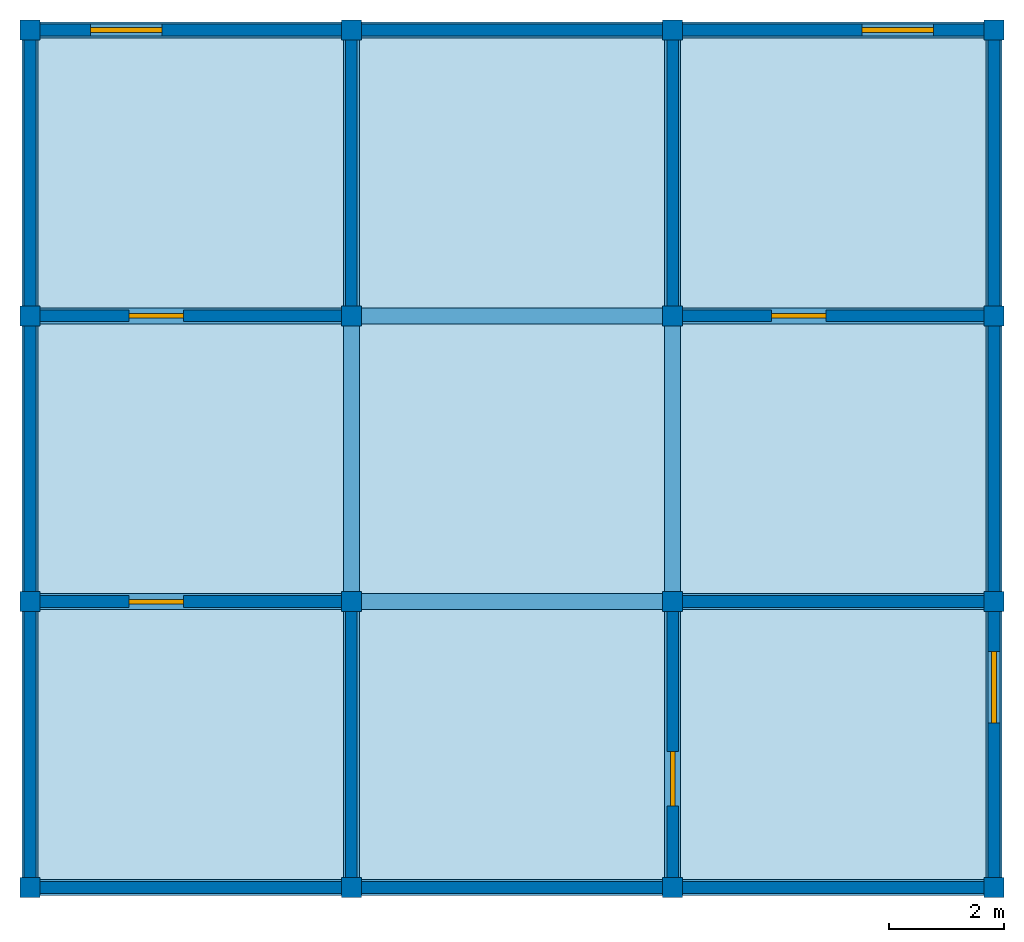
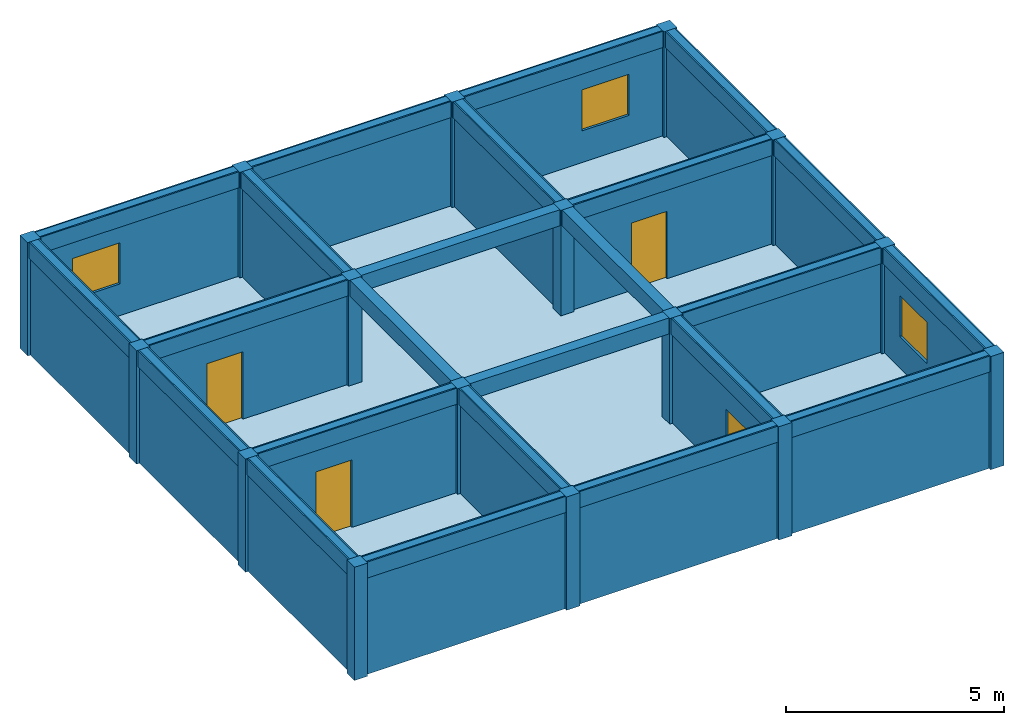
# One storey: 24 beams, 20 walls, 16 columns, 4 doors, 3 windows, 1 slab, 7 openings.
"""IFC4X3 building model written with IfcOpenShell, lengths in metres."""

from ifc_helpers import new_model, si_unit, frame, origin_with_axes, origin_2d, place, context, project, spatial, rectangle, extrude, material, element, fill, save


model = new_model("IFC4X3")

# Units and contexts
model_context = context("Model", 3, precision=1e-05, world=origin_with_axes())
ifc_project = project(units=[si_unit("LENGTHUNIT", "METRE"), si_unit("AREAUNIT", "SQUARE_METRE"), si_unit("VOLUMEUNIT", "CUBIC_METRE")], contexts=[model_context])

# Site, building, storey
site = spatial("IfcSite", under=ifc_project, Name="Puerto Montt Parcel", CompositionType="ELEMENT")
building = spatial("IfcBuilding", under=site, Name="Apex Hub", CompositionType="ELEMENT")
storey = spatial("IfcBuildingStorey", under=building, Name="Level 3", CompositionType="ELEMENT", Elevation=6.33)

# Columns
ifc_material_1 = material(Name="Timber")
column_1_placement = place(None, frame((-8.415, -7.485, 6.334), z_axis=(0.0, 0.0, 1.0), x_axis=(1.0, 0.0, 0.0)))
element("IfcColumn", 1, at=column_1_placement, inside=storey, material=ifc_material_1, Name="Column 3.1", ObjectType="Core Column", PredefinedType="USERDEFINED", context=model_context, shape_type="SweptSolid", body=[
    extrude(rectangle(XDim=0.35, YDim=0.35, at=origin_2d()), origin_with_axes(), (0.0, 0.0, 1.0), 3.167),
])
for number, where, z_axis, x_axis, name in (
    (2, (-8.415, -2.495, 6.334), (0.0, 0.0, 1.0), (1.0, 0.0, 0.0), "Column 3.2"),
    (3, (-8.415, 2.495, 6.334), (0.0, 0.0, 1.0), (1.0, 0.0, 0.0), "Column 3.3"),
):
    element("IfcColumn", number, at=place(None, frame(where, z_axis=z_axis, x_axis=x_axis)), inside=storey, material=ifc_material_1, Name=name, ObjectType="Corner Column", PredefinedType="PILASTER", context=model_context, shape_type="SweptSolid", body=[
        extrude(rectangle(XDim=0.35, YDim=0.35, at=origin_2d()), origin_with_axes(), (0.0, 0.0, 1.0), 3.167),
    ])
column_2_placement = place(None, frame((-8.415, 7.485, 6.334), z_axis=(0.0, 0.0, 1.0), x_axis=(1.0, 0.0, 0.0)))
element("IfcColumn", 4, at=column_2_placement, inside=storey, material=ifc_material_1, Name="Column 3.4", ObjectType="Core Column", PredefinedType="USERDEFINED", context=model_context, shape_type="SweptSolid", body=[
    extrude(rectangle(XDim=0.35, YDim=0.35, at=origin_2d()), origin_with_axes(), (0.0, 0.0, 1.0), 3.167),
])
column_3_placement = place(None, frame((-2.805, -7.485, 6.334), z_axis=(0.0, 0.0, 1.0), x_axis=(1.0, 0.0, 0.0)))
element("IfcColumn", 5, at=column_3_placement, inside=storey, material=ifc_material_1, Name="Column 3.5", ObjectType="Core Column", PredefinedType="NOTDEFINED", context=model_context, shape_type="SweptSolid", body=[
    extrude(rectangle(XDim=0.35, YDim=0.35, at=origin_2d()), origin_with_axes(), (0.0, 0.0, 1.0), 3.167),
])
for number, where, z_axis, x_axis, name in (
    (6, (-2.805, -2.495, 6.334), (0.0, 0.0, 1.0), (1.0, 0.0, 0.0), "Column 3.6"),
    (7, (-2.805, 2.495, 6.334), (0.0, 0.0, 1.0), (1.0, 0.0, 0.0), "Column 3.7"),
):
    element("IfcColumn", number, at=place(None, frame(where, z_axis=z_axis, x_axis=x_axis)), inside=storey, material=ifc_material_1, Name=name, ObjectType="Facade Column", PredefinedType="USERDEFINED", context=model_context, shape_type="SweptSolid", body=[
        extrude(rectangle(XDim=0.35, YDim=0.35, at=origin_2d()), origin_with_axes(), (0.0, 0.0, 1.0), 3.167),
    ])
column_4_placement = place(None, frame((-2.805, 7.485, 6.334), z_axis=(0.0, 0.0, 1.0), x_axis=(1.0, 0.0, 0.0)))
element("IfcColumn", 8, at=column_4_placement, inside=storey, material=ifc_material_1, Name="Column 3.8", ObjectType="Corner Column", PredefinedType="USERDEFINED", context=model_context, shape_type="SweptSolid", body=[
    extrude(rectangle(XDim=0.35, YDim=0.35, at=origin_2d()), origin_with_axes(), (0.0, 0.0, 1.0), 3.167),
])
column_5_placement = place(None, frame((2.805, -7.485, 6.334), z_axis=(0.0, 0.0, 1.0), x_axis=(1.0, 0.0, 0.0)))
element("IfcColumn", 9, at=column_5_placement, inside=storey, material=ifc_material_1, Name="Column 3.9", ObjectType="Structural Column", PredefinedType="USERDEFINED", context=model_context, shape_type="SweptSolid", body=[
    extrude(rectangle(XDim=0.35, YDim=0.35, at=origin_2d()), origin_with_axes(), (0.0, 0.0, 1.0), 3.167),
])
column_6_placement = place(None, frame((2.805, -2.495, 6.334), z_axis=(0.0, 0.0, 1.0), x_axis=(1.0, 0.0, 0.0)))
element("IfcColumn", 10, at=column_6_placement, inside=storey, material=ifc_material_1, Name="Column 3.10", ObjectType="Corner Column", PredefinedType="PILASTER", context=model_context, shape_type="SweptSolid", body=[
    extrude(rectangle(XDim=0.35, YDim=0.35, at=origin_2d()), origin_with_axes(), (0.0, 0.0, 1.0), 3.167),
])
for number, where, z_axis, x_axis, name in (
    (11, (2.805, 2.495, 6.334), (0.0, 0.0, 1.0), (1.0, 0.0, 0.0), "Column 3.11"),
    (12, (2.805, 7.485, 6.334), (0.0, 0.0, 1.0), (1.0, 0.0, 0.0), "Column 3.12"),
):
    element("IfcColumn", number, at=place(None, frame(where, z_axis=z_axis, x_axis=x_axis)), inside=storey, material=ifc_material_1, Name=name, ObjectType="Corner Column", PredefinedType="NOTDEFINED", context=model_context, shape_type="SweptSolid", body=[
        extrude(rectangle(XDim=0.35, YDim=0.35, at=origin_2d()), origin_with_axes(), (0.0, 0.0, 1.0), 3.167),
    ])
column_7_placement = place(None, frame((8.415, -7.485, 6.334), z_axis=(0.0, 0.0, 1.0), x_axis=(1.0, 0.0, 0.0)))
element("IfcColumn", 13, at=column_7_placement, inside=storey, material=ifc_material_1, Name="Column 3.13", ObjectType="Core Column", PredefinedType="NOTDEFINED", context=model_context, shape_type="SweptSolid", body=[
    extrude(rectangle(XDim=0.35, YDim=0.35, at=origin_2d()), origin_with_axes(), (0.0, 0.0, 1.0), 3.167),
])
column_8_placement = place(None, frame((8.415, -2.495, 6.334), z_axis=(0.0, 0.0, 1.0), x_axis=(1.0, 0.0, 0.0)))
element("IfcColumn", 14, at=column_8_placement, inside=storey, material=ifc_material_1, Name="Column 3.14", ObjectType="Core Column", PredefinedType="COLUMN", context=model_context, shape_type="SweptSolid", body=[
    extrude(rectangle(XDim=0.35, YDim=0.35, at=origin_2d()), origin_with_axes(), (0.0, 0.0, 1.0), 3.167),
])
column_9_placement = place(None, frame((8.415, 2.495, 6.334), z_axis=(0.0, 0.0, 1.0), x_axis=(1.0, 0.0, 0.0)))
element("IfcColumn", 15, at=column_9_placement, inside=storey, material=ifc_material_1, Name="Column 3.15", ObjectType="Facade Column", PredefinedType="PILASTER", context=model_context, shape_type="SweptSolid", body=[
    extrude(rectangle(XDim=0.35, YDim=0.35, at=origin_2d()), origin_with_axes(), (0.0, 0.0, 1.0), 3.167),
])
column_10_placement = place(None, frame((8.415, 7.485, 6.334), z_axis=(0.0, 0.0, 1.0), x_axis=(1.0, 0.0, 0.0)))
element("IfcColumn", 16, at=column_10_placement, inside=storey, material=ifc_material_1, Name="Column 3.16", ObjectType="Corner Column", PredefinedType="COLUMN", context=model_context, shape_type="SweptSolid", body=[
    extrude(rectangle(XDim=0.35, YDim=0.35, at=origin_2d()), origin_with_axes(), (0.0, 0.0, 1.0), 3.167),
])

# Beams
ifc_material_2 = material(Name="Concrete")
beam_1_placement = place(None, frame((-5.61, -7.485, 9.051), z_axis=(0.0, 0.0, 1.0), x_axis=(1.0, 0.0, 0.0)))
element("IfcBeam", 17, at=beam_1_placement, inside=storey, material=ifc_material_2, Name="Beam 3.1", ObjectType="Secondary Beam", PredefinedType="T_BEAM", context=model_context, shape_type="SweptSolid", body=[
    extrude(rectangle(XDim=5.61, YDim=0.28, at=origin_2d()), origin_with_axes(), (0.0, 0.0, 1.0), 0.45),
])
beam_2_placement = place(None, frame((0.0, -7.485, 9.051), z_axis=(0.0, 0.0, 1.0), x_axis=(1.0, 0.0, 0.0)))
element("IfcBeam", 18, at=beam_2_placement, inside=storey, material=ifc_material_2, Name="Beam 3.2", ObjectType="Rafter Beam", PredefinedType="NOTDEFINED", context=model_context, shape_type="SweptSolid", body=[
    extrude(rectangle(XDim=5.61, YDim=0.28, at=origin_2d()), origin_with_axes(), (0.0, 0.0, 1.0), 0.45),
])
beam_3_placement = place(None, frame((5.61, -7.485, 9.051), z_axis=(0.0, 0.0, 1.0), x_axis=(1.0, 0.0, 0.0)))
element("IfcBeam", 19, at=beam_3_placement, inside=storey, material=ifc_material_2, Name="Beam 3.3", ObjectType="Transfer Beam", PredefinedType="LINTEL", context=model_context, shape_type="SweptSolid", body=[
    extrude(rectangle(XDim=5.61, YDim=0.28, at=origin_2d()), origin_with_axes(), (0.0, 0.0, 1.0), 0.45),
])
beam_4_placement = place(None, frame((-5.61, -2.495, 9.051), z_axis=(0.0, 0.0, 1.0), x_axis=(1.0, 0.0, 0.0)))
element("IfcBeam", 20, at=beam_4_placement, inside=storey, material=ifc_material_2, Name="Beam 3.4", ObjectType="Secondary Beam", PredefinedType="JOIST", context=model_context, shape_type="SweptSolid", body=[
    extrude(rectangle(XDim=5.61, YDim=0.28, at=origin_2d()), origin_with_axes(), (0.0, 0.0, 1.0), 0.45),
])
beam_5_placement = place(None, frame((0.0, -2.495, 9.051), z_axis=(0.0, 0.0, 1.0), x_axis=(1.0, 0.0, 0.0)))
element("IfcBeam", 21, at=beam_5_placement, inside=storey, material=ifc_material_2, Name="Beam 3.5", ObjectType="Transfer Beam", PredefinedType="LINTEL", context=model_context, shape_type="SweptSolid", body=[
    extrude(rectangle(XDim=5.61, YDim=0.28, at=origin_2d()), origin_with_axes(), (0.0, 0.0, 1.0), 0.45),
])
beam_6_placement = place(None, frame((5.61, -2.495, 9.051), z_axis=(0.0, 0.0, 1.0), x_axis=(1.0, 0.0, 0.0)))
element("IfcBeam", 22, at=beam_6_placement, inside=storey, material=ifc_material_2, Name="Beam 3.6", ObjectType="Secondary Beam", PredefinedType="LINTEL", context=model_context, shape_type="SweptSolid", body=[
    extrude(rectangle(XDim=5.61, YDim=0.28, at=origin_2d()), origin_with_axes(), (0.0, 0.0, 1.0), 0.45),
])
beam_7_placement = place(None, frame((-5.61, 2.495, 9.051), z_axis=(0.0, 0.0, 1.0), x_axis=(1.0, 0.0, 0.0)))
element("IfcBeam", 23, at=beam_7_placement, inside=storey, material=ifc_material_2, Name="Beam 3.7", ObjectType="Transfer Beam", PredefinedType="T_BEAM", context=model_context, shape_type="SweptSolid", body=[
    extrude(rectangle(XDim=5.61, YDim=0.28, at=origin_2d()), origin_with_axes(), (0.0, 0.0, 1.0), 0.45),
])
beam_8_placement = place(None, frame((0.0, 2.495, 9.051), z_axis=(0.0, 0.0, 1.0), x_axis=(1.0, 0.0, 0.0)))
element("IfcBeam", 24, at=beam_8_placement, inside=storey, material=ifc_material_2, Name="Beam 3.8", ObjectType="Ridge Beam", PredefinedType="HOLLOWCORE", context=model_context, shape_type="SweptSolid", body=[
    extrude(rectangle(XDim=5.61, YDim=0.28, at=origin_2d()), origin_with_axes(), (0.0, 0.0, 1.0), 0.45),
])
beam_9_placement = place(None, frame((5.61, 2.495, 9.051), z_axis=(0.0, 0.0, 1.0), x_axis=(1.0, 0.0, 0.0)))
element("IfcBeam", 25, at=beam_9_placement, inside=storey, material=ifc_material_2, Name="Beam 3.9", ObjectType="Transfer Beam", PredefinedType="HOLLOWCORE", context=model_context, shape_type="SweptSolid", body=[
    extrude(rectangle(XDim=5.61, YDim=0.28, at=origin_2d()), origin_with_axes(), (0.0, 0.0, 1.0), 0.45),
])
beam_10_placement = place(None, frame((-5.61, 7.485, 9.051), z_axis=(0.0, 0.0, 1.0), x_axis=(1.0, 0.0, 0.0)))
element("IfcBeam", 26, at=beam_10_placement, inside=storey, material=ifc_material_2, Name="Beam 3.10", ObjectType="Transfer Beam", PredefinedType="T_BEAM", context=model_context, shape_type="SweptSolid", body=[
    extrude(rectangle(XDim=5.61, YDim=0.28, at=origin_2d()), origin_with_axes(), (0.0, 0.0, 1.0), 0.45),
])
beam_11_placement = place(None, frame((0.0, 7.485, 9.051), z_axis=(0.0, 0.0, 1.0), x_axis=(1.0, 0.0, 0.0)))
element("IfcBeam", 27, at=beam_11_placement, inside=storey, material=ifc_material_2, Name="Beam 3.11", ObjectType="Transfer Beam", PredefinedType="BEAM", context=model_context, shape_type="SweptSolid", body=[
    extrude(rectangle(XDim=5.61, YDim=0.28, at=origin_2d()), origin_with_axes(), (0.0, 0.0, 1.0), 0.45),
])
beam_12_placement = place(None, frame((5.61, 7.485, 9.051), z_axis=(0.0, 0.0, 1.0), x_axis=(1.0, 0.0, 0.0)))
element("IfcBeam", 28, at=beam_12_placement, inside=storey, material=ifc_material_2, Name="Beam 3.12", ObjectType="Secondary Beam", PredefinedType="LINTEL", context=model_context, shape_type="SweptSolid", body=[
    extrude(rectangle(XDim=5.61, YDim=0.28, at=origin_2d()), origin_with_axes(), (0.0, 0.0, 1.0), 0.45),
])
beam_13_placement = place(None, frame((-8.415, -4.99, 9.051), z_axis=(0.0, 0.0, 1.0), x_axis=(0.0, 1.0, 0.0)))
element("IfcBeam", 29, at=beam_13_placement, inside=storey, material=ifc_material_2, Name="Beam 3.13", ObjectType="Transfer Beam", PredefinedType="HOLLOWCORE", context=model_context, shape_type="SweptSolid", body=[
    extrude(rectangle(XDim=4.99, YDim=0.28, at=origin_2d()), origin_with_axes(), (0.0, 0.0, 1.0), 0.45),
])
beam_14_placement = place(None, frame((-8.415, 0.0, 9.051), z_axis=(0.0, 0.0, 1.0), x_axis=(0.0, 1.0, 0.0)))
element("IfcBeam", 30, at=beam_14_placement, inside=storey, material=ifc_material_2, Name="Beam 3.14", ObjectType="Rafter Beam", PredefinedType="T_BEAM", context=model_context, shape_type="SweptSolid", body=[
    extrude(rectangle(XDim=4.99, YDim=0.28, at=origin_2d()), origin_with_axes(), (0.0, 0.0, 1.0), 0.45),
])
beam_15_placement = place(None, frame((-8.415, 4.99, 9.051), z_axis=(0.0, 0.0, 1.0), x_axis=(0.0, 1.0, 0.0)))
element("IfcBeam", 31, at=beam_15_placement, inside=storey, material=ifc_material_2, Name="Beam 3.15", ObjectType="Rafter Beam", PredefinedType="LINTEL", context=model_context, shape_type="SweptSolid", body=[
    extrude(rectangle(XDim=4.99, YDim=0.28, at=origin_2d()), origin_with_axes(), (0.0, 0.0, 1.0), 0.45),
])
beam_16_placement = place(None, frame((-2.805, -4.99, 9.051), z_axis=(0.0, 0.0, 1.0), x_axis=(0.0, 1.0, 0.0)))
element("IfcBeam", 32, at=beam_16_placement, inside=storey, material=ifc_material_2, Name="Beam 3.16", ObjectType="Secondary Beam", PredefinedType="LINTEL", context=model_context, shape_type="SweptSolid", body=[
    extrude(rectangle(XDim=4.99, YDim=0.28, at=origin_2d()), origin_with_axes(), (0.0, 0.0, 1.0), 0.45),
])
beam_17_placement = place(None, frame((-2.805, 0.0, 9.051), z_axis=(0.0, 0.0, 1.0), x_axis=(0.0, 1.0, 0.0)))
element("IfcBeam", 33, at=beam_17_placement, inside=storey, material=ifc_material_2, Name="Beam 3.17", ObjectType="Rafter Beam", PredefinedType="USERDEFINED", context=model_context, shape_type="SweptSolid", body=[
    extrude(rectangle(XDim=4.99, YDim=0.28, at=origin_2d()), origin_with_axes(), (0.0, 0.0, 1.0), 0.45),
])
beam_18_placement = place(None, frame((-2.805, 4.99, 9.051), z_axis=(0.0, 0.0, 1.0), x_axis=(0.0, 1.0, 0.0)))
element("IfcBeam", 34, at=beam_18_placement, inside=storey, material=ifc_material_2, Name="Beam 3.18", ObjectType="Secondary Beam", PredefinedType="JOIST", context=model_context, shape_type="SweptSolid", body=[
    extrude(rectangle(XDim=4.99, YDim=0.28, at=origin_2d()), origin_with_axes(), (0.0, 0.0, 1.0), 0.45),
])
beam_19_placement = place(None, frame((2.805, -4.99, 9.051), z_axis=(0.0, 0.0, 1.0), x_axis=(0.0, 1.0, 0.0)))
element("IfcBeam", 35, at=beam_19_placement, inside=storey, material=ifc_material_2, Name="Beam 3.19", ObjectType="Rafter Beam", PredefinedType="NOTDEFINED", context=model_context, shape_type="SweptSolid", body=[
    extrude(rectangle(XDim=4.99, YDim=0.28, at=origin_2d()), origin_with_axes(), (0.0, 0.0, 1.0), 0.45),
])
beam_20_placement = place(None, frame((2.805, 0.0, 9.051), z_axis=(0.0, 0.0, 1.0), x_axis=(0.0, 1.0, 0.0)))
element("IfcBeam", 36, at=beam_20_placement, inside=storey, material=ifc_material_2, Name="Beam 3.20", ObjectType="Rafter Beam", PredefinedType="HOLLOWCORE", context=model_context, shape_type="SweptSolid", body=[
    extrude(rectangle(XDim=4.99, YDim=0.28, at=origin_2d()), origin_with_axes(), (0.0, 0.0, 1.0), 0.45),
])
beam_21_placement = place(None, frame((2.805, 4.99, 9.051), z_axis=(0.0, 0.0, 1.0), x_axis=(0.0, 1.0, 0.0)))
element("IfcBeam", 37, at=beam_21_placement, inside=storey, material=ifc_material_2, Name="Beam 3.21", ObjectType="Secondary Beam", PredefinedType="USERDEFINED", context=model_context, shape_type="SweptSolid", body=[
    extrude(rectangle(XDim=4.99, YDim=0.28, at=origin_2d()), origin_with_axes(), (0.0, 0.0, 1.0), 0.45),
])
beam_22_placement = place(None, frame((8.415, -4.99, 9.051), z_axis=(0.0, 0.0, 1.0), x_axis=(0.0, 1.0, 0.0)))
element("IfcBeam", 38, at=beam_22_placement, inside=storey, material=ifc_material_2, Name="Beam 3.22", ObjectType="Primary Beam", PredefinedType="SPANDREL", context=model_context, shape_type="SweptSolid", body=[
    extrude(rectangle(XDim=4.99, YDim=0.28, at=origin_2d()), origin_with_axes(), (0.0, 0.0, 1.0), 0.45),
])
beam_23_placement = place(None, frame((8.415, 0.0, 9.051), z_axis=(0.0, 0.0, 1.0), x_axis=(0.0, 1.0, 0.0)))
element("IfcBeam", 39, at=beam_23_placement, inside=storey, material=ifc_material_2, Name="Beam 3.23", ObjectType="Rafter Beam", PredefinedType="JOIST", context=model_context, shape_type="SweptSolid", body=[
    extrude(rectangle(XDim=4.99, YDim=0.28, at=origin_2d()), origin_with_axes(), (0.0, 0.0, 1.0), 0.45),
])
beam_24_placement = place(None, frame((8.415, 4.99, 9.051), z_axis=(0.0, 0.0, 1.0), x_axis=(0.0, 1.0, 0.0)))
element("IfcBeam", 40, at=beam_24_placement, inside=storey, material=ifc_material_2, Name="Beam 3.24", ObjectType="Primary Beam", PredefinedType="USERDEFINED", context=model_context, shape_type="SweptSolid", body=[
    extrude(rectangle(XDim=4.99, YDim=0.28, at=origin_2d()), origin_with_axes(), (0.0, 0.0, 1.0), 0.45),
])

# Slab
slab_placement = place(None, frame((0.0, 0.0, 6.33), z_axis=(0.0, 0.0, 1.0), x_axis=(1.0, 0.0, 0.0)))
element("IfcSlab", 41, at=slab_placement, inside=storey, material=ifc_material_1, Name="Slab 3", ObjectType="Floor Slab", PredefinedType="FLOOR", context=model_context, shape_type="SweptSolid", body=[
    extrude(rectangle(XDim=16.83, YDim=14.97, at=origin_2d()), origin_with_axes(), (0.0, 0.0, 1.0), 0.22),
])

# Wall, opening, door
ifc_material_3 = material(Name="CLT")
wall_1_placement = place(None, frame((-5.61, -2.495, 6.334), z_axis=(0.0, 0.0, 1.0), x_axis=(1.0, 0.0, 0.0)))
wall_1 = element("IfcWall", 42, at=wall_1_placement, inside=storey, material=ifc_material_3, Name="Wall 3.1", ObjectType="Corridor Partition", PredefinedType="NOTDEFINED", context=model_context, shape_type="SweptSolid", body=[
    extrude(rectangle(XDim=5.61, YDim=0.20608, at=origin_2d()), origin_with_axes(), (0.0, 0.0, 1.0), 3.167),
])
opening_1_placement = place(None, frame((-6.21, -2.495, 6.334), z_axis=(0.0, 0.0, 1.0), x_axis=(1.0, 0.0, 0.0)))
opening_1 = element("IfcOpeningElement", 43, at=opening_1_placement, cuts=wall_1, Name="Door opening 3.1", ObjectType="Door Opening", PredefinedType="OPENING", context=model_context, shape_type="SweptSolid", body=[
    extrude(rectangle(XDim=0.95, YDim=0.28608, at=origin_2d()), origin_with_axes(), (0.0, 0.0, 1.0), 2.1),
])
door_1_placement = place(None, frame((-6.21, -2.495, 6.334), z_axis=(0.0, 0.0, 1.0), x_axis=(1.0, 0.0, 0.0)))
door_1 = element("IfcDoor", 44, at=door_1_placement, inside=storey, Name="Door 3.1", ObjectType="Fire Door", OverallHeight=2.1, OverallWidth=0.95, context=model_context, shape_type="SweptSolid", body=[
    extrude(rectangle(XDim=0.95, YDim=0.08, at=origin_2d()), origin_with_axes(), (0.0, 0.0, 1.0), 2.1),
])
fill(opening_1, door_1)

# Walls
wall_2_placement = place(None, frame((-2.805, -4.99, 6.334), z_axis=(0.0, 0.0, 1.0), x_axis=(0.0, 1.0, 0.0)))
element("IfcWall", 45, at=wall_2_placement, inside=storey, material=ifc_material_3, Name="Wall 3.2", ObjectType="Corridor Partition", PredefinedType="USERDEFINED", context=model_context, shape_type="SweptSolid", body=[
    extrude(rectangle(XDim=4.99, YDim=0.20608, at=origin_2d()), origin_with_axes(), (0.0, 0.0, 1.0), 3.167),
])
wall_3_placement = place(None, frame((-5.61, -7.485, 6.334), z_axis=(0.0, 0.0, 1.0), x_axis=(1.0, 0.0, 0.0)))
element("IfcWall", 46, at=wall_3_placement, inside=storey, material=ifc_material_2, Name="Wall 3.3", ObjectType="Exterior Wall", PredefinedType="USERDEFINED", context=model_context, shape_type="SweptSolid", body=[
    extrude(rectangle(XDim=5.61, YDim=0.20608, at=origin_2d()), origin_with_axes(), (0.0, 0.0, 1.0), 3.167),
])
wall_4_placement = place(None, frame((-8.415, -4.99, 6.334), z_axis=(0.0, 0.0, 1.0), x_axis=(0.0, 1.0, 0.0)))
element("IfcWall", 47, at=wall_4_placement, inside=storey, material=ifc_material_2, Name="Wall 3.4", ObjectType="Exterior Wall", PredefinedType="ELEMENTEDWALL", context=model_context, shape_type="SweptSolid", body=[
    extrude(rectangle(XDim=4.99, YDim=0.20608, at=origin_2d()), origin_with_axes(), (0.0, 0.0, 1.0), 3.167),
])

# Wall, opening, door
ifc_material_4 = material(Name="Gypsum")
wall_5_placement = place(None, frame((2.805, -4.99, 6.334), z_axis=(0.0, 0.0, 1.0), x_axis=(0.0, 1.0, 0.0)))
wall_5 = element("IfcWall", 48, at=wall_5_placement, inside=storey, material=ifc_material_4, Name="Wall 3.5", ObjectType="Corridor Partition", PredefinedType="PARAPET", context=model_context, shape_type="SweptSolid", body=[
    extrude(rectangle(XDim=4.99, YDim=0.20608, at=origin_2d()), origin_with_axes(), (0.0, 0.0, 1.0), 3.167),
])
opening_2_placement = place(None, frame((2.805, -5.59, 6.334), z_axis=(0.0, 0.0, 1.0), x_axis=(0.0, 1.0, 0.0)))
opening_2 = element("IfcOpeningElement", 49, at=opening_2_placement, cuts=wall_5, Name="Door opening 3.2", ObjectType="Door Opening", PredefinedType="OPENING", context=model_context, shape_type="SweptSolid", body=[
    extrude(rectangle(XDim=0.95, YDim=0.28608, at=origin_2d()), origin_with_axes(), (0.0, 0.0, 1.0), 2.1),
])
door_2_placement = place(None, frame((2.805, -5.59, 6.334), z_axis=(0.0, 0.0, 1.0), x_axis=(0.0, 1.0, 0.0)))
door_2 = element("IfcDoor", 50, at=door_2_placement, inside=storey, Name="Door 3.2", ObjectType="Entry Door", OverallHeight=2.1, OverallWidth=0.95, context=model_context, shape_type="SweptSolid", body=[
    extrude(rectangle(XDim=0.95, YDim=0.08, at=origin_2d()), origin_with_axes(), (0.0, 0.0, 1.0), 2.1),
])
fill(opening_2, door_2)

# Walls
wall_6_placement = place(None, frame((0.0, -7.485, 6.334), z_axis=(0.0, 0.0, 1.0), x_axis=(1.0, 0.0, 0.0)))
element("IfcWall", 51, at=wall_6_placement, inside=storey, material=ifc_material_4, Name="Wall 3.6", ObjectType="Exterior Wall", PredefinedType="POLYGONAL", context=model_context, shape_type="SweptSolid", body=[
    extrude(rectangle(XDim=5.61, YDim=0.20608, at=origin_2d()), origin_with_axes(), (0.0, 0.0, 1.0), 3.167),
])
wall_7_placement = place(None, frame((5.61, -2.495, 6.334), z_axis=(0.0, 0.0, 1.0), x_axis=(1.0, 0.0, 0.0)))
element("IfcWall", 52, at=wall_7_placement, inside=storey, material=ifc_material_4, Name="Wall 3.7", ObjectType="Corridor Partition", PredefinedType="PLUMBINGWALL", context=model_context, shape_type="SweptSolid", body=[
    extrude(rectangle(XDim=5.61, YDim=0.20608, at=origin_2d()), origin_with_axes(), (0.0, 0.0, 1.0), 3.167),
])

# Wall, opening, window
wall_8_placement = place(None, frame((8.415, -4.99, 6.334), z_axis=(0.0, 0.0, 1.0), x_axis=(0.0, 1.0, 0.0)))
wall_8 = element("IfcWall", 53, at=wall_8_placement, inside=storey, material=ifc_material_2, Name="Wall 3.8", ObjectType="Exterior Wall", PredefinedType="NOTDEFINED", context=model_context, shape_type="SweptSolid", body=[
    extrude(rectangle(XDim=4.99, YDim=0.20608, at=origin_2d()), origin_with_axes(), (0.0, 0.0, 1.0), 3.167),
])
opening_3_placement = place(None, frame((8.415, -3.992, 7.434), z_axis=(0.0, 0.0, 1.0), x_axis=(0.0, 1.0, 0.0)))
opening_3 = element("IfcOpeningElement", 54, at=opening_3_placement, cuts=wall_8, Name="Window opening 3.3", ObjectType="Window Opening", PredefinedType="OPENING", context=model_context, shape_type="SweptSolid", body=[
    extrude(rectangle(XDim=1.25, YDim=0.28608, at=origin_2d()), origin_with_axes(), (0.0, 0.0, 1.0), 1.15),
])
window_1_placement = place(None, frame((8.415, -3.992, 7.434), z_axis=(0.0, 0.0, 1.0), x_axis=(0.0, 1.0, 0.0)))
window_1 = element("IfcWindow", 55, at=window_1_placement, inside=storey, Name="Window 3.3", ObjectType="Louvre Window", OverallHeight=1.15, OverallWidth=1.25, context=model_context, shape_type="SweptSolid", body=[
    extrude(rectangle(XDim=1.25, YDim=0.08, at=origin_2d()), origin_with_axes(), (0.0, 0.0, 1.0), 1.15),
])
fill(opening_3, window_1)

# Wall
ifc_material_5 = material(Name="Brick")
wall_9_placement = place(None, frame((5.61, -7.485, 6.334), z_axis=(0.0, 0.0, 1.0), x_axis=(1.0, 0.0, 0.0)))
element("IfcWall", 56, at=wall_9_placement, inside=storey, material=ifc_material_5, Name="Wall 3.9", ObjectType="Exterior Wall", PredefinedType="PLUMBINGWALL", context=model_context, shape_type="SweptSolid", body=[
    extrude(rectangle(XDim=5.61, YDim=0.20608, at=origin_2d()), origin_with_axes(), (0.0, 0.0, 1.0), 3.167),
])

# Wall, opening, door
wall_10_placement = place(None, frame((-5.61, 2.495, 6.334), z_axis=(0.0, 0.0, 1.0), x_axis=(1.0, 0.0, 0.0)))
wall_10 = element("IfcWall", 57, at=wall_10_placement, inside=storey, material=ifc_material_3, Name="Wall 3.10", ObjectType="Corridor Partition", PredefinedType="NOTDEFINED", context=model_context, shape_type="SweptSolid", body=[
    extrude(rectangle(XDim=5.61, YDim=0.20608, at=origin_2d()), origin_with_axes(), (0.0, 0.0, 1.0), 3.167),
])
opening_4_placement = place(None, frame((-6.21, 2.495, 6.334), z_axis=(0.0, 0.0, 1.0), x_axis=(1.0, 0.0, 0.0)))
opening_4 = element("IfcOpeningElement", 58, at=opening_4_placement, cuts=wall_10, Name="Door opening 3.4", ObjectType="Door Opening", PredefinedType="OPENING", context=model_context, shape_type="SweptSolid", body=[
    extrude(rectangle(XDim=0.95, YDim=0.28608, at=origin_2d()), origin_with_axes(), (0.0, 0.0, 1.0), 2.1),
])
door_3_placement = place(None, frame((-6.21, 2.495, 6.334), z_axis=(0.0, 0.0, 1.0), x_axis=(1.0, 0.0, 0.0)))
door_3 = element("IfcDoor", 59, at=door_3_placement, inside=storey, Name="Door 3.4", ObjectType="Interior Door", OverallHeight=2.1, OverallWidth=0.95, context=model_context, shape_type="SweptSolid", body=[
    extrude(rectangle(XDim=0.95, YDim=0.08, at=origin_2d()), origin_with_axes(), (0.0, 0.0, 1.0), 2.1),
])
fill(opening_4, door_3)

# Wall
wall_11_placement = place(None, frame((-8.415, 0.0, 6.334), z_axis=(0.0, 0.0, 1.0), x_axis=(0.0, 1.0, 0.0)))
element("IfcWall", 60, at=wall_11_placement, inside=storey, material=ifc_material_5, Name="Wall 3.11", ObjectType="Exterior Wall", PredefinedType="SOLIDWALL", context=model_context, shape_type="SweptSolid", body=[
    extrude(rectangle(XDim=4.99, YDim=0.20608, at=origin_2d()), origin_with_axes(), (0.0, 0.0, 1.0), 3.167),
])

# Wall, opening, door
wall_12_placement = place(None, frame((5.61, 2.495, 6.334), z_axis=(0.0, 0.0, 1.0), x_axis=(1.0, 0.0, 0.0)))
wall_12 = element("IfcWall", 61, at=wall_12_placement, inside=storey, material=ifc_material_3, Name="Wall 3.12", ObjectType="Corridor Partition", PredefinedType="MOVABLE", context=model_context, shape_type="SweptSolid", body=[
    extrude(rectangle(XDim=5.61, YDim=0.20608, at=origin_2d()), origin_with_axes(), (0.0, 0.0, 1.0), 3.167),
])
opening_5_placement = place(None, frame((5.01, 2.495, 6.334), z_axis=(0.0, 0.0, 1.0), x_axis=(1.0, 0.0, 0.0)))
opening_5 = element("IfcOpeningElement", 62, at=opening_5_placement, cuts=wall_12, Name="Door opening 3.6", ObjectType="Door Opening", PredefinedType="OPENING", context=model_context, shape_type="SweptSolid", body=[
    extrude(rectangle(XDim=0.95, YDim=0.28608, at=origin_2d()), origin_with_axes(), (0.0, 0.0, 1.0), 2.1),
])
door_4_placement = place(None, frame((5.01, 2.495, 6.334), z_axis=(0.0, 0.0, 1.0), x_axis=(1.0, 0.0, 0.0)))
door_4 = element("IfcDoor", 63, at=door_4_placement, inside=storey, Name="Door 3.6", ObjectType="Interior Door", OverallHeight=2.1, OverallWidth=0.95, context=model_context, shape_type="SweptSolid", body=[
    extrude(rectangle(XDim=0.95, YDim=0.08, at=origin_2d()), origin_with_axes(), (0.0, 0.0, 1.0), 2.1),
])
fill(opening_5, door_4)

# Wall
wall_13_placement = place(None, frame((8.415, 0.0, 6.334), z_axis=(0.0, 0.0, 1.0), x_axis=(0.0, 1.0, 0.0)))
element("IfcWall", 64, at=wall_13_placement, inside=storey, material=ifc_material_2, Name="Wall 3.13", ObjectType="Exterior Wall", PredefinedType="STANDARD", context=model_context, shape_type="SweptSolid", body=[
    extrude(rectangle(XDim=4.99, YDim=0.20608, at=origin_2d()), origin_with_axes(), (0.0, 0.0, 1.0), 3.167),
])

# Wall, opening, window
wall_14_placement = place(None, frame((-5.61, 7.485, 6.334), z_axis=(0.0, 0.0, 1.0), x_axis=(1.0, 0.0, 0.0)))
wall_14 = element("IfcWall", 65, at=wall_14_placement, inside=storey, material=ifc_material_5, Name="Wall 3.14", ObjectType="Exterior Wall", PredefinedType="POLYGONAL", context=model_context, shape_type="SweptSolid", body=[
    extrude(rectangle(XDim=5.61, YDim=0.20608, at=origin_2d()), origin_with_axes(), (0.0, 0.0, 1.0), 3.167),
])
opening_6_placement = place(None, frame((-6.732, 7.485, 7.434), z_axis=(0.0, 0.0, 1.0), x_axis=(1.0, 0.0, 0.0)))
opening_6 = element("IfcOpeningElement", 66, at=opening_6_placement, cuts=wall_14, Name="Window opening 3.5", ObjectType="Window Opening", PredefinedType="OPENING", context=model_context, shape_type="SweptSolid", body=[
    extrude(rectangle(XDim=1.25, YDim=0.28608, at=origin_2d()), origin_with_axes(), (0.0, 0.0, 1.0), 1.15),
])
window_2_placement = place(None, frame((-6.732, 7.485, 7.434), z_axis=(0.0, 0.0, 1.0), x_axis=(1.0, 0.0, 0.0)))
window_2 = element("IfcWindow", 67, at=window_2_placement, inside=storey, Name="Window 3.5", ObjectType="Curtain Window", OverallHeight=1.15, OverallWidth=1.25, context=model_context, shape_type="SweptSolid", body=[
    extrude(rectangle(XDim=1.25, YDim=0.08, at=origin_2d()), origin_with_axes(), (0.0, 0.0, 1.0), 1.15),
])
fill(opening_6, window_2)

# Walls
wall_15_placement = place(None, frame((-2.805, 4.99, 6.334), z_axis=(0.0, 0.0, 1.0), x_axis=(0.0, 1.0, 0.0)))
element("IfcWall", 68, at=wall_15_placement, inside=storey, material=ifc_material_3, Name="Wall 3.15", ObjectType="Corridor Partition", PredefinedType="STANDARD", context=model_context, shape_type="SweptSolid", body=[
    extrude(rectangle(XDim=4.99, YDim=0.20608, at=origin_2d()), origin_with_axes(), (0.0, 0.0, 1.0), 3.167),
])
wall_16_placement = place(None, frame((-8.415, 4.99, 6.334), z_axis=(0.0, 0.0, 1.0), x_axis=(0.0, 1.0, 0.0)))
element("IfcWall", 69, at=wall_16_placement, inside=storey, material=ifc_material_5, Name="Wall 3.16", ObjectType="Exterior Wall", PredefinedType="NOTDEFINED", context=model_context, shape_type="SweptSolid", body=[
    extrude(rectangle(XDim=4.99, YDim=0.20608, at=origin_2d()), origin_with_axes(), (0.0, 0.0, 1.0), 3.167),
])
wall_17_placement = place(None, frame((0.0, 7.485, 6.334), z_axis=(0.0, 0.0, 1.0), x_axis=(1.0, 0.0, 0.0)))
element("IfcWall", 70, at=wall_17_placement, inside=storey, material=ifc_material_2, Name="Wall 3.17", ObjectType="Exterior Wall", PredefinedType="NOTDEFINED", context=model_context, shape_type="SweptSolid", body=[
    extrude(rectangle(XDim=5.61, YDim=0.20608, at=origin_2d()), origin_with_axes(), (0.0, 0.0, 1.0), 3.167),
])
wall_18_placement = place(None, frame((2.805, 4.99, 6.334), z_axis=(0.0, 0.0, 1.0), x_axis=(0.0, 1.0, 0.0)))
element("IfcWall", 71, at=wall_18_placement, inside=storey, material=ifc_material_2, Name="Wall 3.18", ObjectType="Corridor Partition", PredefinedType="SOLIDWALL", context=model_context, shape_type="SweptSolid", body=[
    extrude(rectangle(XDim=4.99, YDim=0.20608, at=origin_2d()), origin_with_axes(), (0.0, 0.0, 1.0), 3.167),
])

# Wall, opening, window
wall_19_placement = place(None, frame((5.61, 7.485, 6.334), z_axis=(0.0, 0.0, 1.0), x_axis=(1.0, 0.0, 0.0)))
wall_19 = element("IfcWall", 72, at=wall_19_placement, inside=storey, material=ifc_material_2, Name="Wall 3.19", ObjectType="Exterior Wall", PredefinedType="POLYGONAL", context=model_context, shape_type="SweptSolid", body=[
    extrude(rectangle(XDim=5.61, YDim=0.20608, at=origin_2d()), origin_with_axes(), (0.0, 0.0, 1.0), 3.167),
])
opening_7_placement = place(None, frame((6.732, 7.485, 7.434), z_axis=(0.0, 0.0, 1.0), x_axis=(1.0, 0.0, 0.0)))
opening_7 = element("IfcOpeningElement", 73, at=opening_7_placement, cuts=wall_19, Name="Window opening 3.7", ObjectType="Window Opening", PredefinedType="OPENING", context=model_context, shape_type="SweptSolid", body=[
    extrude(rectangle(XDim=1.25, YDim=0.28608, at=origin_2d()), origin_with_axes(), (0.0, 0.0, 1.0), 1.15),
])
window_3_placement = place(None, frame((6.732, 7.485, 7.434), z_axis=(0.0, 0.0, 1.0), x_axis=(1.0, 0.0, 0.0)))
window_3 = element("IfcWindow", 74, at=window_3_placement, inside=storey, Name="Window 3.7", ObjectType="Curtain Window", OverallHeight=1.15, OverallWidth=1.25, context=model_context, shape_type="SweptSolid", body=[
    extrude(rectangle(XDim=1.25, YDim=0.08, at=origin_2d()), origin_with_axes(), (0.0, 0.0, 1.0), 1.15),
])
fill(opening_7, window_3)

# Wall
wall_20_placement = place(None, frame((8.415, 4.99, 6.334), z_axis=(0.0, 0.0, 1.0), x_axis=(0.0, 1.0, 0.0)))
element("IfcWall", 75, at=wall_20_placement, inside=storey, material=ifc_material_4, Name="Wall 3.20", ObjectType="Exterior Wall", PredefinedType="PLUMBINGWALL", context=model_context, shape_type="SweptSolid", body=[
    extrude(rectangle(XDim=4.99, YDim=0.20608, at=origin_2d()), origin_with_axes(), (0.0, 0.0, 1.0), 3.167),
])

save(model, "model.ifc")
